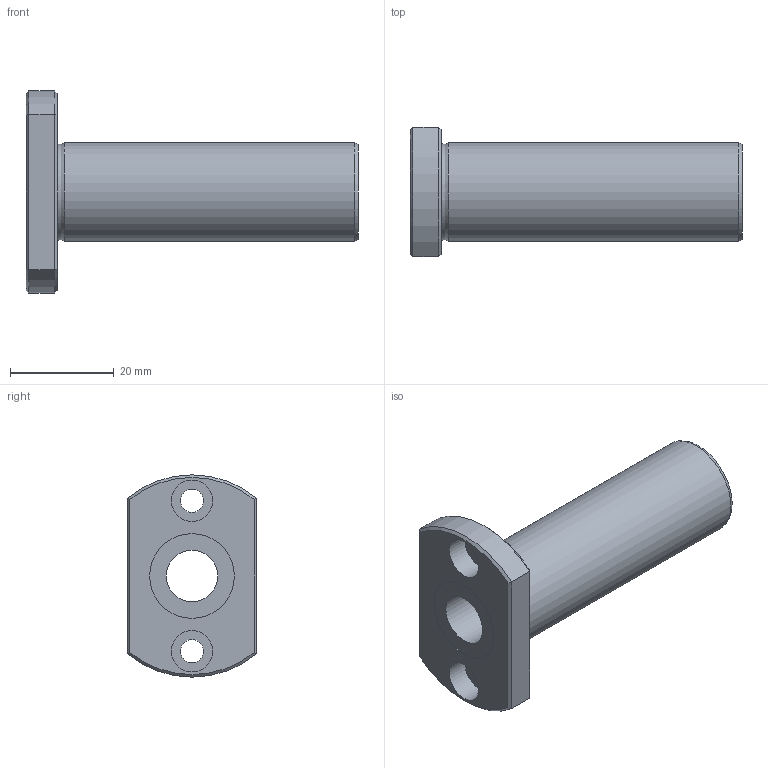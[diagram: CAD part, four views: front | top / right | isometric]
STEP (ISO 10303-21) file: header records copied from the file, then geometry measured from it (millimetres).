
FILE_DESCRIPTION((''),'2;1');
FILE_NAME('D:\製品 (図面)\カタログ用3D\メンテナンスフリー関連\STEP形式\LFDT-MF\LFDT10MF.stp','2010-06-01T15:49:58',('Tsuchiya'),(''),'Autodesk Inventor 10','Autodesk Inventor 10','');
FILE_SCHEMA(('AUTOMOTIVE_DESIGN { 1 0 10303 214 1 1 1 1 }'));
Length unit declared in the file: millimetre
Products named in the file (1): LFDT10MF
Bounding box: 64 x 25 x 39 mm (x, y, z)
Volume: 16272.2 mm3; surface area: 7942.9 mm2
Topology: 1 solids, 1 shells, 29 faces, 56 edges, 34 vertices
Faces by surface type: plane 13, cylinder 10, cone 4, torus 1, bspline 1
Full cylindrical faces by diameter (mm): 4.5 x2, 8 x2, 10 x1, 16.3 x2, 19 x1
Entity records: 787 total; most frequent: CARTESIAN_POINT 196, DIRECTION 122, ORIENTED_EDGE 92, AXIS2_PLACEMENT_3D 55, EDGE_LOOP 50, EDGE_CURVE 46, VERTEX_POINT 34, FACE_OUTER_BOUND 29
